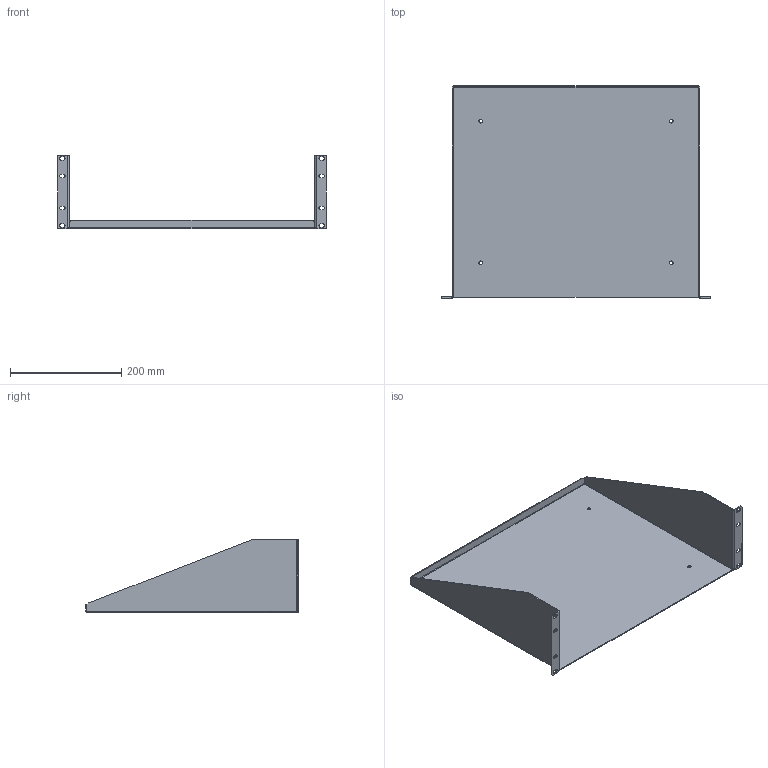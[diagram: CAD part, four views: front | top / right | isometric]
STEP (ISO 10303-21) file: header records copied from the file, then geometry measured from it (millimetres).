
FILE_DESCRIPTION( ( 'Unknown' ), '1' );
FILE_NAME( 'Q:/ACCESSORIES/SHELVES/RK _ RMA/WEB DRAWINGS/STEP/RASU190515.stp', 'Unknown', ( 'Unknown' ), ( 'Unknown' ), 'PSStep 10.1', 'Unknown', ' ' );
FILE_SCHEMA( ( 'AUTOMOTIVE_DESIGN { 1 0 10303 214 1 1 1 1 }' ) );
Length unit declared in the file: millimetre
Products named in the file (1): 1
Bounding box: 482.75 x 381 x 132.54 mm (x, y, z)
Volume: 443450.2 mm3; surface area: 489323.6 mm2
Topology: 1 solids, 1 shells, 100 faces, 278 edges, 180 vertices
Faces by surface type: plane 56, cylinder 40, bspline 4
Full cylindrical faces by diameter (mm): 6.35 x4
Entity records: 3445 total; most frequent: CARTESIAN_POINT 843, ORIENTED_EDGE 540, DIRECTION 524, EDGE_CURVE 270, AXIS2_PLACEMENT_3D 177, VERTEX_POINT 176, LINE 170, VECTOR 170
